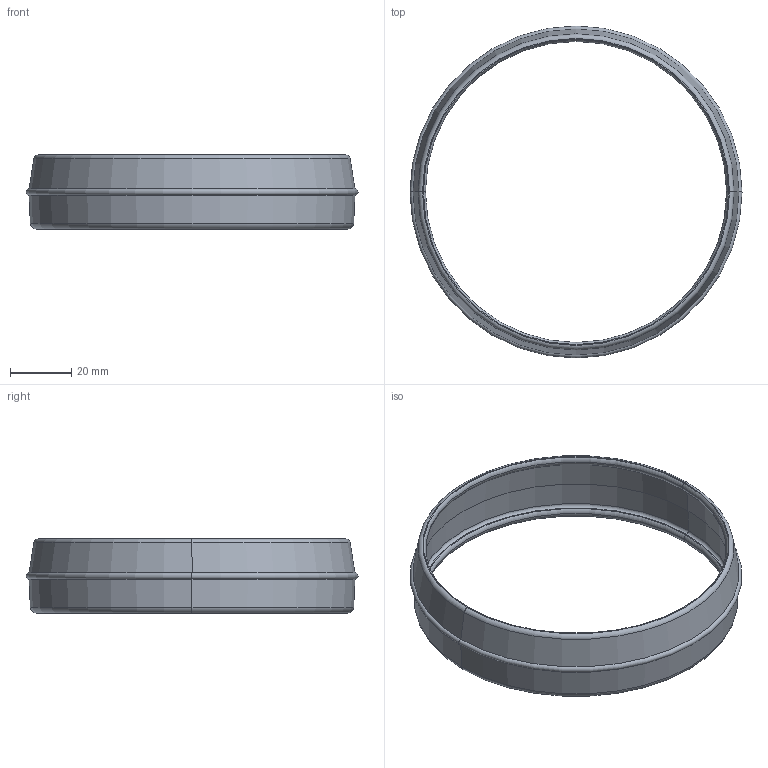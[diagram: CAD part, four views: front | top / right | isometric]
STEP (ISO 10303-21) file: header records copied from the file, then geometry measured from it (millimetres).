
FILE_DESCRIPTION (( 'STEP AP214' ), '1' );
FILE_NAME ('0338 Schutzring.STEP', '2025-03-26T07:59:42', ( '' ), ( '' ), 'SwSTEP 2.0', 'SolidWorks 2022', '' );
FILE_SCHEMA (( 'AUTOMOTIVE_DESIGN' ));
Length unit declared in the file: millimetre
Products named in the file (1): 0338 Schutzring
Bounding box: 108.5 x 108.5 x 24.2 mm (x, y, z)
Volume: 12251.5 mm3; surface area: 17844.3 mm2
Topology: 1 solids, 1 shells, 30 faces, 60 edges, 34 vertices
Faces by surface type: torus 18, cone 8, plane 4
Entity records: 830 total; most frequent: DIRECTION 174, CARTESIAN_POINT 125, ORIENTED_EDGE 120, AXIS2_PLACEMENT_3D 83, EDGE_CURVE 60, CIRCLE 52, VERTEX_POINT 34, EDGE_LOOP 34
